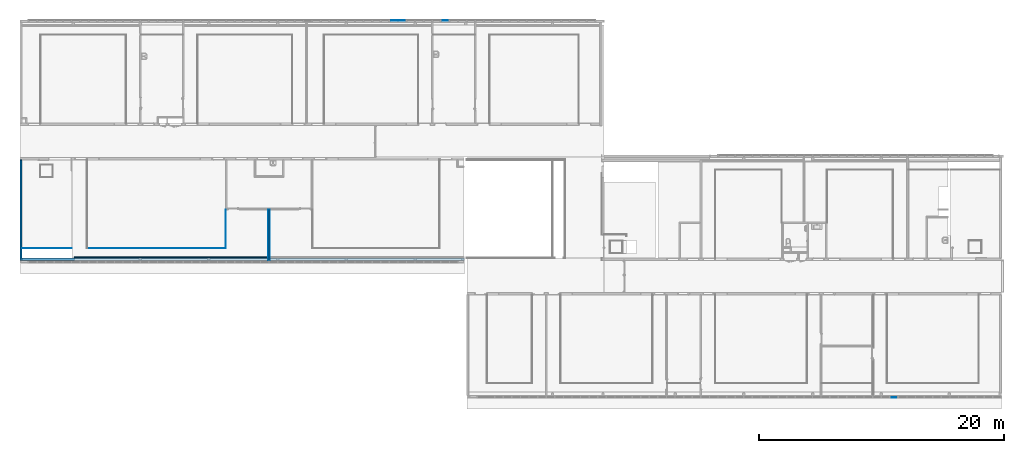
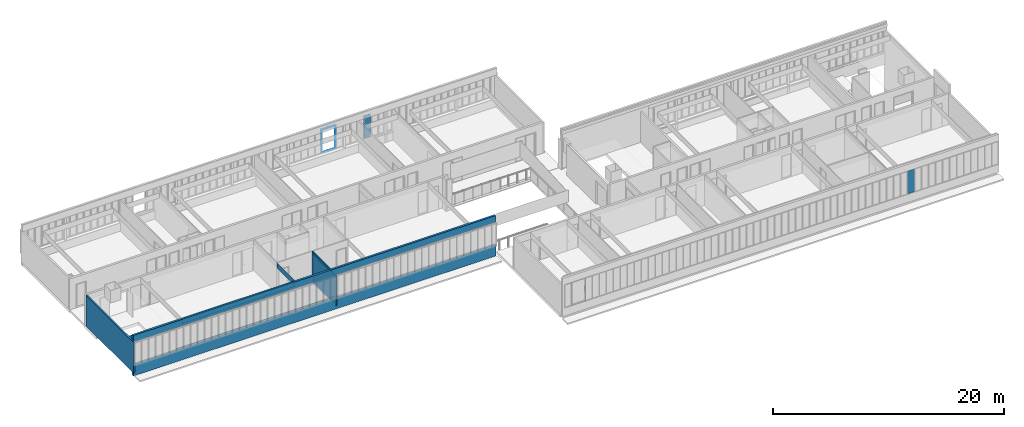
# One storey, part 26 of 87: 10 walls, 4 plates, 2 elements without a shape of their own.
"""IFC2X3 building model written with IfcOpenShell, lengths in centimetres."""

from ifc_helpers import new_model, entity, si_unit, converted_unit, derived_unit, direction, frame, frame_2d, origin, place, context, subcontext, project, spatial, polyline, rectangle, extrude, clip, bounded_halfspace, faceted_brep, source, transform, mapped, material, layer, layer_set, layer_usage, type_object, type_shapes, element, aggregate, save


model = new_model("IFC2X3")

# Units and contexts
model_context = context("Model", 3, precision=0.001, world=origin(), true_north=direction((6.12303176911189e-17, 1.0)))
body_context = subcontext(model_context, "Body", "Model", "MODEL_VIEW")
ifc_project = project(units=[si_unit("LENGTHUNIT", "METRE", prefix="CENTI"), si_unit("AREAUNIT", "SQUARE_METRE"), si_unit("VOLUMEUNIT", "CUBIC_METRE"), converted_unit("PLANEANGLEUNIT", "DEGREE", entity("IfcRatioMeasure", 0.0174532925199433), si_unit("PLANEANGLEUNIT", "RADIAN"), dimensions=[0, 0, 0, 0, 0, 0, 0]), si_unit("MASSUNIT", "GRAM", prefix="KILO"), derived_unit("MASSDENSITYUNIT", [(si_unit("MASSUNIT", "GRAM", prefix="KILO"), 1), (si_unit("LENGTHUNIT", "METRE"), -3)]), si_unit("TIMEUNIT", "SECOND"), si_unit("FREQUENCYUNIT", "HERTZ"), si_unit("THERMODYNAMICTEMPERATUREUNIT", "DEGREE_CELSIUS"), derived_unit("THERMALTRANSMITTANCEUNIT", [(si_unit("MASSUNIT", "GRAM", prefix="KILO"), 1), (si_unit("THERMODYNAMICTEMPERATUREUNIT", "KELVIN"), -1), (si_unit("TIMEUNIT", "SECOND"), -3)]), derived_unit("VOLUMETRICFLOWRATEUNIT", [(si_unit("LENGTHUNIT", "METRE"), 3), (si_unit("TIMEUNIT", "SECOND"), -1)]), si_unit("ELECTRICCURRENTUNIT", "AMPERE"), si_unit("ELECTRICVOLTAGEUNIT", "VOLT"), si_unit("POWERUNIT", "WATT"), si_unit("FORCEUNIT", "NEWTON", prefix="KILO"), si_unit("ILLUMINANCEUNIT", "LUX"), si_unit("LUMINOUSFLUXUNIT", "LUMEN"), si_unit("LUMINOUSINTENSITYUNIT", "CANDELA"), derived_unit("USERDEFINED", [(si_unit("MASSUNIT", "GRAM", prefix="KILO"), -1), (si_unit("LENGTHUNIT", "METRE"), -2), (si_unit("TIMEUNIT", "SECOND"), 3), (si_unit("LUMINOUSFLUXUNIT", "LUMEN"), 1)]), derived_unit("LINEARVELOCITYUNIT", [(si_unit("LENGTHUNIT", "METRE"), 1), (si_unit("TIMEUNIT", "SECOND"), -1)]), si_unit("PRESSUREUNIT", "PASCAL"), derived_unit("USERDEFINED", [(si_unit("LENGTHUNIT", "METRE"), -2), (si_unit("MASSUNIT", "GRAM", prefix="KILO"), 1), (si_unit("TIMEUNIT", "SECOND"), -2)])], contexts=[model_context])

# Site, building, storey
site_placement = place(None, frame((-2781.94577612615, 7442.24238424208, 0.0)))
site = spatial("IfcSite", under=ifc_project, at=site_placement, Name="Default", CompositionType="ELEMENT")
building_placement = place(site_placement, origin())
building = spatial("IfcBuilding", under=site, at=building_placement, CompositionType="ELEMENT")
storey_placement = place(building_placement, frame((0.0, 0.0, 774.0)))
storey = spatial("IfcBuildingStorey", under=building, at=storey_placement, Name="TR - N02 - ARCH", CompositionType="ELEMENT", Elevation=774.0)

# Curtain wall, plates
curtain_wall_type = type_object("IfcCurtainWallType", Name="Mur-rideau:07 - mur rideau trame 70cm", PredefinedType="NOTDEFINED")
curtain_wall_1_placement = place(storey_placement, frame((0.0, 0.0, -774.0)))
curtain_wall_1 = element("IfcCurtainWall", 1, at=curtain_wall_1_placement, inside=storey, type_object=curtain_wall_type, Name="Mur-rideau:07 - mur rideau trame 70cm", ObjectType="Mur-rideau:07 - mur rideau trame 70cm")
ifc_material_1 = material(Name="Verre")
ifc_layer_1 = layer(ifc_material_1, 4.0)
ifc_layer_set_1 = layer_set([ifc_layer_1], Name="Panneau système:Vitré")
plate_type_1 = type_object("IfcPlateType", Name="Vitré", PredefinedType="CURTAIN_PANEL", material=ifc_layer_set_1)
shared_shape_1 = source(origin(), body_context, "Body", "Brep", [
    faceted_brep([(-34.1312499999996, -2.0, 1.73749999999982), (34.1312499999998, -2.0, 1.73749999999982), (34.1312499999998, -2.0, 242.5), (-34.1312499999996, -2.0, 242.5), (34.1312499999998, -2.0, 0.0), (34.1312499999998, -2.0, 244.2375), (-33.8687500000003, -2.0, 244.2375), (-33.8687500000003, -2.0, 0.0), (-34.1312499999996, 2.0, 1.73749999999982), (-34.1312499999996, 2.0, 242.5), (34.1312499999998, 2.0, 242.5), (34.1312499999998, 2.0, 1.73749999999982), (34.1312499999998, 2.0, 0.0), (-33.8687500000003, 2.0, 0.0), (-33.8687500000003, 2.0, 244.2375), (34.1312499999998, 2.0, 244.2375)], [[[0, 1, 2, 3]], [[4, 5, 6, 7]], [[8, 9, 10, 11]], [[12, 13, 14, 15]], [[1, 0, 8, 11]], [[2, 1, 11, 10]], [[3, 2, 10, 9]], [[0, 3, 9, 8]], [[7, 13, 12, 4]], [[6, 14, 13, 7]], [[5, 15, 14, 6]], [[4, 12, 15, 5]]]),
])
type_shapes(plate_type_1, [shared_shape_1])
plate_1_placement = place(curtain_wall_1_placement, frame((-4944.4998776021, 26.2000000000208, 859.88125), z_axis=(0.0, 0.0, 1.0), x_axis=(-1.0, 0.0, 0.0)))
plate_1 = element("IfcPlate", 2, at=plate_1_placement, type_object=plate_type_1, Name="Panneau système:Vitré", ObjectType="Panneau système:Vitré", context=body_context, shape_type="MappedRepresentation", body=[
    mapped(shared_shape_1, transform((0.0, 0.0, 0.0), scale=1.0)),
])
plate_type_2 = type_object("IfcPlateType", Name="Vitré", PredefinedType="CURTAIN_PANEL", material=ifc_layer_set_1)
shared_shape_2 = source(origin(), body_context, "Body", "Brep", [
    faceted_brep([(34.1312499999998, -2.0, 0.0), (-31.7499999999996, -2.0, 0.0), (-31.7499999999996, -2.0, 244.2375), (34.1312499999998, -2.0, 244.2375), (34.1312499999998, -2.0, 242.5), (-34.1312499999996, -2.0, 242.5), (-34.1312499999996, -2.0, 1.73749999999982), (34.1312499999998, -2.0, 1.73749999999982), (34.1312499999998, 2.0, 0.0), (34.1312499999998, 2.0, 1.73749999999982), (-34.1312499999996, 2.0, 1.73749999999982), (-34.1312499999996, 2.0, 242.5), (34.1312499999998, 2.0, 242.5), (34.1312499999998, 2.0, 244.2375), (-31.7499999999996, 2.0, 244.2375), (-31.7499999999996, 2.0, 0.0)], [[[0, 1, 2, 3, 4, 5, 6, 7]], [[8, 9, 10, 11, 12, 13, 14, 15]], [[1, 0, 8, 15]], [[2, 1, 15, 14]], [[3, 2, 14, 13]], [[4, 3, 13, 12]], [[5, 4, 12, 11]], [[6, 5, 11, 10]], [[7, 6, 10, 9]], [[0, 7, 9, 8]]]),
])
type_shapes(plate_type_2, [shared_shape_2])
plate_2_placement = place(curtain_wall_1_placement, frame((-5294.4998776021, 26.2000000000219, 859.88125), z_axis=(0.0, 0.0, 1.0), x_axis=(-1.0, 0.0, 0.0)))
plate_2 = element("IfcPlate", 3, at=plate_2_placement, type_object=plate_type_2, material=ifc_material_1, Name="Panneau système:Vitré", ObjectType="Panneau système:Vitré", context=body_context, shape_type="MappedRepresentation", body=[
    mapped(shared_shape_2, transform((0.0, 0.0, 0.0), scale=1.0)),
])
plate_type_3 = type_object("IfcPlateType", Name="Vitré", PredefinedType="CURTAIN_PANEL", material=ifc_layer_set_1)
shared_shape_3 = source(origin(), body_context, "Body", "Brep", [
    faceted_brep([(31.7499999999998, -2.0, 0.0), (-34.1312500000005, -2.0, 0.0), (-34.1312500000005, -2.0, 1.73749999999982), (34.1312500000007, -2.0, 1.73749999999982), (34.1312500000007, -2.0, 242.5), (-34.1312500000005, -2.0, 242.5), (-34.1312500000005, -2.0, 244.2375), (31.7499999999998, -2.0, 244.2375), (31.7499999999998, 2.0, 0.0), (31.7499999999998, 2.0, 244.2375), (-34.1312500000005, 2.0, 244.2375), (-34.1312500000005, 2.0, 242.5), (34.1312500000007, 2.0, 242.5), (34.1312500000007, 2.0, 1.73749999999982), (-34.1312500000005, 2.0, 1.73749999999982), (-34.1312500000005, 2.0, 0.0)], [[[0, 1, 2, 3, 4, 5, 6, 7]], [[8, 9, 10, 11, 12, 13, 14, 15]], [[1, 0, 8, 15]], [[2, 1, 15, 14]], [[3, 2, 14, 13]], [[4, 3, 13, 12]], [[5, 4, 12, 11]], [[6, 5, 11, 10]], [[7, 6, 10, 9]], [[0, 7, 9, 8]]]),
])
type_shapes(plate_type_3, [shared_shape_3])
plate_3_placement = place(curtain_wall_1_placement, frame((-5364.4998776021, 26.2000000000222, 859.88125), z_axis=(0.0, 0.0, 1.0), x_axis=(-1.0, 0.0, 0.0)))
plate_3 = element("IfcPlate", 4, at=plate_3_placement, type_object=plate_type_3, material=ifc_material_1, Name="Panneau système:Vitré", ObjectType="Panneau système:Vitré", context=body_context, shape_type="MappedRepresentation", body=[
    mapped(shared_shape_3, transform((0.0, 0.0, 0.0), scale=1.0)),
])
aggregate(curtain_wall_1, [plate_1, plate_2, plate_3])

# Curtain wall, plate
curtain_wall_2_placement = place(storey_placement, frame((0.0, 0.0, -774.0)))
curtain_wall_2 = element("IfcCurtainWall", 5, at=curtain_wall_2_placement, inside=storey, type_object=curtain_wall_type, Name="Mur-rideau:07 - mur rideau trame 70cm", ObjectType="Mur-rideau:07 - mur rideau trame 70cm")
plate_type_4 = type_object("IfcPlateType", Name="Vitré", PredefinedType="CURTAIN_PANEL", material=ifc_layer_set_1)
shared_shape_4 = source(origin(), body_context, "Body", "Brep", [
    faceted_brep([(-34.0718776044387, -2.0, 0.0), (34.1906223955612, -2.0, 0.0), (34.1906223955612, -2.0, 240.762499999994), (-34.0718776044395, -2.0, 240.762499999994), (33.809377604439, -2.0, 2.38124999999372), (-34.1906223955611, -2.0, 2.38124999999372), (-34.1906223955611, -2.0, 238.381249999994), (33.809377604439, -2.0, 238.381249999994), (-34.0718776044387, 2.0, 0.0), (-34.0718776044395, 2.0, 240.762499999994), (34.1906223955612, 2.0, 240.762499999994), (34.1906223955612, 2.0, 0.0), (33.809377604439, 2.0, 2.38124999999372), (33.809377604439, 2.0, 238.381249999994), (-34.1906223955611, 2.0, 238.381249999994), (-34.1906223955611, 2.0, 2.38124999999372)], [[[0, 1, 2, 3], [4, 5, 6, 7]], [[8, 9, 10, 11], [12, 13, 14, 15]], [[1, 0, 8, 11]], [[2, 1, 11, 10]], [[3, 2, 10, 9]], [[0, 3, 9, 8]], [[5, 4, 12, 15]], [[6, 5, 15, 14]], [[7, 6, 14, 13]], [[4, 7, 13, 12]]]),
])
type_shapes(plate_type_4, [shared_shape_4])
plate_4_placement = place(curtain_wall_2_placement, frame((-1285.80925520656, -3046.51349958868, 861.618750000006)))
plate_4 = element("IfcPlate", 6, at=plate_4_placement, type_object=plate_type_4, material=ifc_material_1, Name="Panneau système:Vitré", ObjectType="Panneau système:Vitré", context=body_context, shape_type="MappedRepresentation", body=[
    mapped(shared_shape_4, transform((0.0, 0.0, 0.0), scale=1.0)),
])
aggregate(curtain_wall_2, [plate_4])

# Walls
ifc_material_2 = material(Name="00 - Isolant")
ifc_layer_2 = layer(ifc_material_2, 14.0)
ifc_material_3 = material(Name="01 - Enduit/Plâtre")
ifc_layer_3 = layer(ifc_material_3, 1.3)
ifc_layer_set_2 = layer_set([ifc_layer_2, ifc_layer_3], Name="Mur de base:04 - Parement -  isolant 14 cm + BA13")
ifc_layer_usage_1 = layer_usage(ifc_layer_set_2, "AXIS2", "NEGATIVE", 7.65)
wall_type_1 = type_object("IfcWallType", Name="Mur de base:04 - Parement -  isolant 14 cm + BA13", PredefinedType="STANDARD", material=ifc_layer_set_2)
wall_1_placement = place(storey_placement, frame((-8401.84987766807, -1930.97903364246, 0.0), z_axis=(0.0, 0.0, 1.0), x_axis=(0.0, 1.0, 0.0)))
element("IfcWallStandardCase", 7, at=wall_1_placement, inside=storey, type_object=wall_type_1, material=ifc_layer_usage_1, Name="Mur de base:04 - Parement -  isolant 14 cm + BA13", ObjectType="Mur de base:04 - Parement -  isolant 14 cm + BA13", context=body_context, shape_type="SweptSolid", body=[
    extrude(rectangle(XDim=820.979033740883, YDim=15.3000000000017, at=frame_2d((410.489516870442, -1.17239551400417e-13), x_axis=(-1.0, 0.0))), origin(), (0.0, 0.0, 1.0), 326.0),
])
ifc_material_4 = material(Name="01 - Maçonnerie")
ifc_layer_4 = layer(ifc_material_4, 20.0)
ifc_layer_set_3 = layer_set([ifc_layer_4], Name="Mur de base:04 - Structure - béton - 20cm")
ifc_layer_usage_2 = layer_usage(ifc_layer_set_3, "AXIS2", "NEGATIVE", 10.0)
wall_type_2 = type_object("IfcWallType", Name="Mur de base:04 - Structure - béton - 20cm", PredefinedType="STANDARD", material=ifc_layer_set_3)
wall_2_placement = place(storey_placement, frame((-8409.49987766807, -1920.07903364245, -31.0)))
element("IfcWallStandardCase", 8, at=wall_2_placement, inside=storey, type_object=wall_type_2, material=ifc_layer_usage_2, Name="Mur de base:04 - Structure - béton - 20cm", ObjectType="Mur de base:04 - Structure - béton - 20cm", context=body_context, shape_type="SweptSolid", body=[
    extrude(rectangle(XDim=3621.50000006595, YDim=19.9999999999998, at=frame_2d((1810.75000003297, -2.1316282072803e-14), x_axis=(-1.0, 0.0))), origin(), (0.0, 0.0, 1.0), 119.0),
])
ifc_layer_usage_3 = layer_usage(ifc_layer_set_3, "AXIS2", "NEGATIVE", 10.0)
wall_3_placement = place(storey_placement, frame((-8409.49987766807, -1920.07903364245, 326.0)))
element("IfcWallStandardCase", 9, at=wall_3_placement, inside=storey, type_object=wall_type_2, material=ifc_layer_usage_3, Name="Mur de base:04 - Structure - béton - 20cm", ObjectType="Mur de base:04 - Structure - béton - 20cm", context=body_context, shape_type="Clipping", body=[
    clip(clip(extrude(rectangle(XDim=3621.50000006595, YDim=19.9999999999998, at=frame_2d((1810.75000003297, -2.1316282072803e-14), x_axis=(-1.0, 0.0))), origin(), (0.0, 0.0, 1.0), 71.0000000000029), bounded_halfspace(frame((0.0, 9.7655340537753, 46.0), z_axis=(0.0, -1.0, 0.0), x_axis=(1.0, 0.0, 0.0)), True, frame((0.0, 9.7655340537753, 46.0), z_axis=(0.0, -1.0, 0.0), x_axis=(1.0, 0.0, 0.0)), polyline([(0.0, 0.0), (0.0, -46.0), (3621.50000006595, -46.0), (3621.50000006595, 0.0), (0.0, 0.0)]))), bounded_halfspace(frame((3621.50000006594, 9.76553405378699, 46.0), z_axis=(0.0, 0.0, 1.0), x_axis=(0.0, -1.0, 0.0)), True, frame((3621.50000006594, 9.76553405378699, 46.0), z_axis=(0.0, 0.0, 1.0), x_axis=(0.0, -1.0, 0.0)), polyline([(0.0, 0.0), (-0.2344659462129, 0.0), (-0.234465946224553, -3621.50000006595), (0.0, -3621.50000006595), (0.0, 0.0)]))),
])
ifc_layer_5 = layer(ifc_material_3, 1.3)
ifc_layer_6 = layer(ifc_material_2, 7.4)
ifc_layer_7 = layer(ifc_material_3, 1.3)
ifc_layer_set_4 = layer_set([ifc_layer_5, ifc_layer_6, ifc_layer_7], Name="Mur de base:06 - cloisons - Ba13 10cm")
ifc_layer_usage_4 = layer_usage(ifc_layer_set_4, "AXIS2", "NEGATIVE", 5.0)
wall_type_3 = type_object("IfcWallType", Name="Mur de base:06 - cloisons - Ba13 10cm", PredefinedType="STANDARD", material=ifc_layer_set_4)
wall_4_placement = place(storey_placement, frame((-6379.49987760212, -1515.03951677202, 0.0), z_axis=(0.0, 0.0, 1.0), x_axis=(0.0, -1.0, 0.0)))
element("IfcWallStandardCase", 10, at=wall_4_placement, inside=storey, type_object=wall_type_3, material=ifc_layer_usage_4, Name="Mur de base:06 - cloisons - Ba13 10cm", ObjectType="Mur de base:06 - cloisons - Ba13 10cm", context=body_context, shape_type="SweptSolid", body=[
    extrude(rectangle(XDim=415.039516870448, YDim=9.99999999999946, at=frame_2d((207.519758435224, 1.64313007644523e-14), x_axis=(-1.0, 0.0))), origin(), (0.0, 0.0, 1.0), 326.0),
])
ifc_layer_8 = layer(ifc_material_3, 1.3)
ifc_material_5 = material(Name="00 - VIDE D'AIR")
ifc_layer_9 = layer(ifc_material_5, 0.7)
ifc_layer_set_5 = layer_set([ifc_layer_8, ifc_layer_9], Name="Mur de base:06 - habillage Ba13 collée 2cm")
ifc_layer_usage_5 = layer_usage(ifc_layer_set_5, "AXIS2", "NEGATIVE", 1.0)
wall_type_4 = type_object("IfcWallType", Name="Mur de base:06 - habillage Ba13 collée 2cm", PredefinedType="STANDARD", material=ifc_layer_set_5)
wall_5_placement = place(storey_placement, frame((-6733.49987760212, -1515.03951677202, 270.0), z_axis=(0.0, 0.0, 1.0), x_axis=(0.0, -1.0, 0.0)))
element("IfcWallStandardCase", 11, at=wall_5_placement, inside=storey, type_object=wall_type_4, material=ifc_layer_usage_5, Name="Mur de base:06 - habillage Ba13 collée 2cm", ObjectType="Mur de base:06 - habillage Ba13 collée 2cm", context=body_context, shape_type="SweptSolid", body=[
    extrude(rectangle(XDim=315.939516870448, YDim=1.99999999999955, at=frame_2d((157.969758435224, -7.49955653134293e-14), x_axis=(-1.0, 0.0))), origin(), (0.0, 0.0, 1.0), 55.9999999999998),
])
ifc_layer_usage_6 = layer_usage(ifc_layer_set_5, "AXIS2", "NEGATIVE", 1.0)
wall_6_placement = place(storey_placement, frame((-6734.49987760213, -1829.97903364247, 270.0), z_axis=(0.0, 0.0, 1.0), x_axis=(-1.0, 0.0, 0.0)))
element("IfcWallStandardCase", 12, at=wall_6_placement, inside=storey, type_object=wall_type_4, material=ifc_layer_usage_6, Name="Mur de base:06 - habillage Ba13 collée 2cm", ObjectType="Mur de base:06 - habillage Ba13 collée 2cm", context=body_context, shape_type="SweptSolid", body=[
    extrude(rectangle(XDim=1129.00016406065, YDim=1.99999999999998, at=frame_2d((564.500082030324, 4.69069227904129e-14), x_axis=(-1.0, 0.0))), origin(), (0.0, 0.0, 1.0), 55.9999999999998),
])
ifc_layer_usage_7 = layer_usage(ifc_layer_set_5, "AXIS2", "NEGATIVE", 1.0)
wall_7_placement = place(storey_placement, frame((-7986.49987760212, -1829.97903364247, 270.0), z_axis=(0.0, 0.0, 1.0), x_axis=(-1.0, 0.0, 0.0)))
element("IfcWallStandardCase", 13, at=wall_7_placement, inside=storey, type_object=wall_type_4, material=ifc_layer_usage_7, Name="Mur de base:06 - habillage Ba13 collée 2cm", ObjectType="Mur de base:06 - habillage Ba13 collée 2cm", context=body_context, shape_type="SweptSolid", body=[
    extrude(rectangle(XDim=407.700000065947, YDim=1.99999999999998, at=frame_2d((203.850000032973, -7.105427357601e-15), x_axis=(-1.0, 0.0))), origin(), (0.0, 0.0, 1.0), 55.9999999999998),
])
ifc_material_6 = material(Name="Pin")
ifc_layer_10 = layer(ifc_material_6, 2.0)
ifc_layer_set_6 = layer_set([ifc_layer_10], Name="Mur de base:06 - habillage bois collée 2cm")
ifc_layer_usage_8 = layer_usage(ifc_layer_set_6, "AXIS2", "NEGATIVE", 1.0)
wall_type_5 = type_object("IfcWallType", Name="Mur de base:06 - habillage bois collée 2cm", PredefinedType="STANDARD", material=ifc_layer_set_6)
wall_8_placement = place(storey_placement, frame((-6385.49987760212, -1930.07903364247, 0.0), z_axis=(0.0, 0.0, 1.0), x_axis=(0.0, 1.0, 0.0)))
element("IfcWallStandardCase", 14, at=wall_8_placement, inside=storey, type_object=wall_type_5, material=ifc_layer_usage_8, Name="Mur de base:06 - habillage bois collée 2cm", ObjectType="Mur de base:06 - habillage bois collée 2cm", context=body_context, shape_type="Clipping", body=[
    clip(clip(extrude(rectangle(XDim=415.039516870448, YDim=1.99999999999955, at=frame_2d((207.519758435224, -4.73510120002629e-14), x_axis=(-1.0, 0.0))), origin(), (0.0, 0.0, 1.0), 306.0), bounded_halfspace(frame((0.0, -1.0, 88.0)), True, frame((0.0, -1.0, 88.0)), polyline([(0.0, 0.0), (20.0, 0.0), (30.0, 0.0), (30.0, 2.0), (0.0, 2.0), (0.0, 0.0)]))), bounded_halfspace(frame((30.0, -1.0, 88.0), z_axis=(1.0, 0.0, 0.0), x_axis=(0.0, 1.0, 0.0)), True, frame((30.0, -1.0, 88.0), z_axis=(1.0, 0.0, 0.0), x_axis=(0.0, 1.0, 0.0)), polyline([(0.0, 0.0), (0.0, -88.0), (2.0, -88.0), (2.0, 0.0), (0.0, 0.0)]))),
])
ifc_layer_usage_9 = layer_usage(ifc_layer_set_6, "AXIS2", "NEGATIVE", 1.0)
wall_9_placement = place(storey_placement, frame((-6373.49987760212, -1930.07903364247, 0.0), z_axis=(0.0, 0.0, 1.0), x_axis=(0.0, 1.0, 0.0)))
element("IfcWallStandardCase", 15, at=wall_9_placement, inside=storey, type_object=wall_type_5, material=ifc_layer_usage_9, Name="Mur de base:06 - habillage bois collée 2cm", ObjectType="Mur de base:06 - habillage bois collée 2cm", context=body_context, shape_type="SweptSolid", body=[
    extrude(rectangle(XDim=415.039516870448, YDim=1.99999999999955, at=frame_2d((207.519758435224, -4.73510120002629e-14), x_axis=(-1.0, 0.0))), origin(), (0.0, 0.0, 1.0), 306.0),
])
ifc_layer_11 = layer(ifc_material_6, 2.0)
ifc_material_7 = material(Name="Mur par défaut")
ifc_layer_12 = layer(ifc_material_7, 8.0)
ifc_layer_set_7 = layer_set([ifc_layer_11, ifc_layer_12], Name="Mur de base:06 - cimaise R+2")
ifc_layer_usage_10 = layer_usage(ifc_layer_set_7, "AXIS2", "NEGATIVE", 5.0)
wall_type_6 = type_object("IfcWallType", Name="Mur de base:06 - cimaise R+2", PredefinedType="STANDARD", material=ifc_layer_set_7)
wall_10_placement = place(storey_placement, frame((-7966.49987760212, -1905.07903364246, 0.0)))
element("IfcWallStandardCase", 16, at=wall_10_placement, inside=storey, type_object=wall_type_6, material=ifc_layer_usage_10, Name="Mur de base:06 - cimaise R+2", ObjectType="Mur de base:06 - cimaise R+2", context=body_context, shape_type="SweptSolid", body=[
    extrude(rectangle(XDim=1582.0, YDim=9.99999999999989, at=frame_2d((790.999999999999, 0.0), x_axis=(-1.0, 0.0))), origin(), (0.0, 0.0, 1.0), 87.9999999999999),
])

save(model, "model.ifc")
